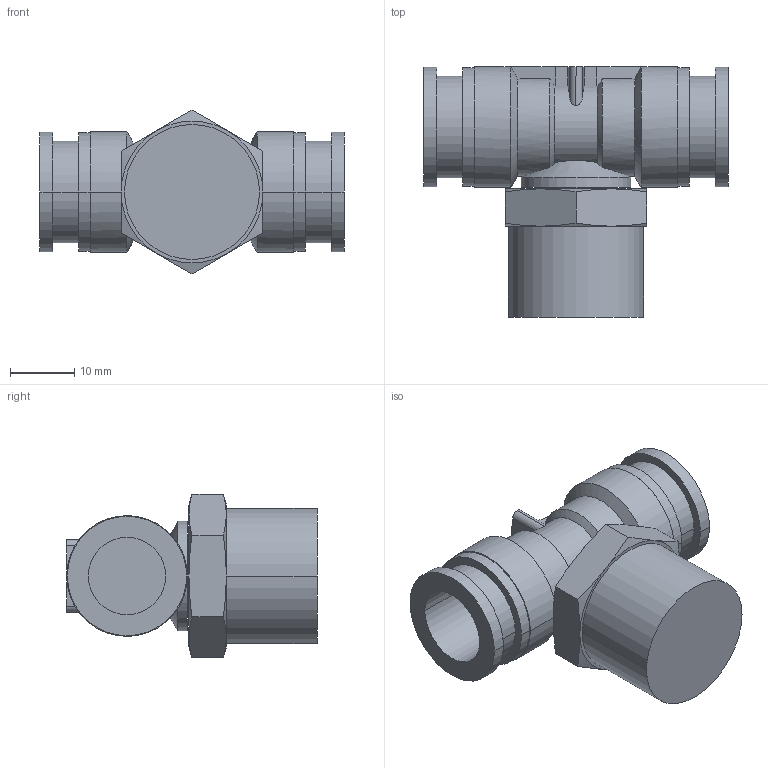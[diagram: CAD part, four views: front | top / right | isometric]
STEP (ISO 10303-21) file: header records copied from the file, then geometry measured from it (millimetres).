
FILE_DESCRIPTION( ( '' ), '1' );
FILE_NAME( 'G:/SMC狟婥/KQ2T12-04AS.stp', '2023-03-07T03:13:58', ( '' ), ( '' ), ' ', ' ', ' ' );
FILE_SCHEMA( ( 'CONFIG_CONTROL_DESIGN' ) );
Length unit declared in the file: millimetre
Products named in the file (1): 1
Bounding box: 47.2 x 38.85 x 25.4 mm (x, y, z)
Volume: 13967.2 mm3; surface area: 7250.2 mm2
Topology: 1 solids, 1 shells, 95 faces, 222 edges, 140 vertices
Faces by surface type: cylinder 40, plane 33, cone 22
Entity records: 3011 total; most frequent: CARTESIAN_POINT 833, DIRECTION 464, ORIENTED_EDGE 444, EDGE_CURVE 222, AXIS2_PLACEMENT_3D 196, VERTEX_POINT 140, EDGE_LOOP 106, ADVANCED_FACE 95
